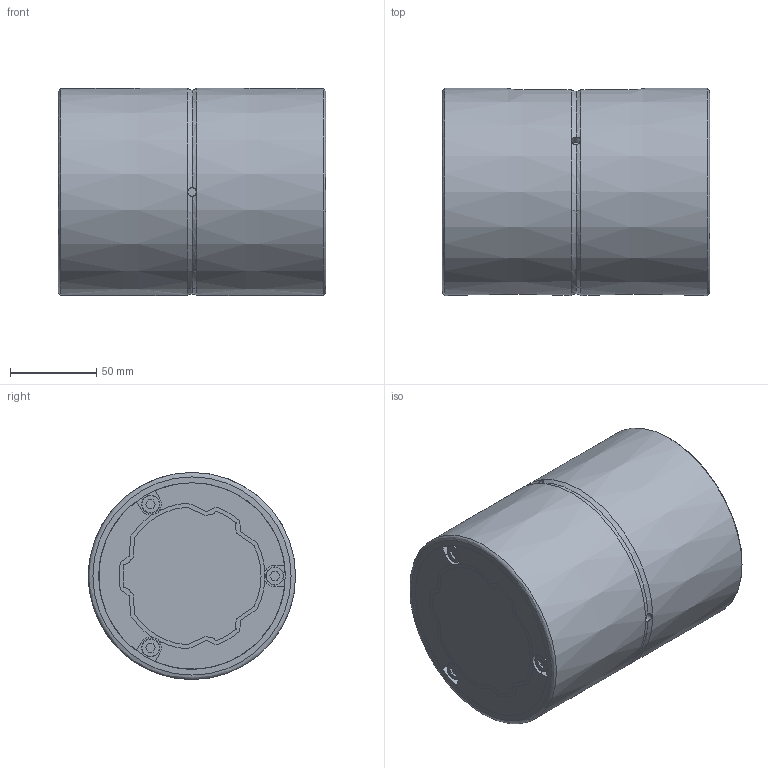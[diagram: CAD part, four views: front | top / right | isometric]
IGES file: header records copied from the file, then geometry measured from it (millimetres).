
Start section: Data from Parasolid IGES Translator 26.0.171, Copyright(c) 2006 Siemens PLM Software. All Rights Reserved.
Global section: file name: SLS80L1155(00).igs; native system: By Siemens PLM Incorporated; preprocessor: XPlus GENERIC/IGES 26.0.171; author: Noname; organization: Noname; date: 20240523.114731; units: millimetre
Bounding box: 155 x 120 x 120 mm (x, y, z)
Surface area: 164767.8 mm2 (no closed solid volume)
Topology: 0 solids, 0 shells, 267 faces, 1474 edges, 1441 vertices
Faces by surface type: extrusion 144, revolution 123
